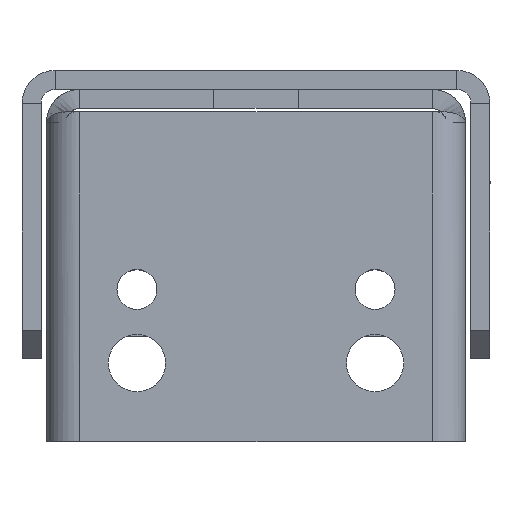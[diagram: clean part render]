
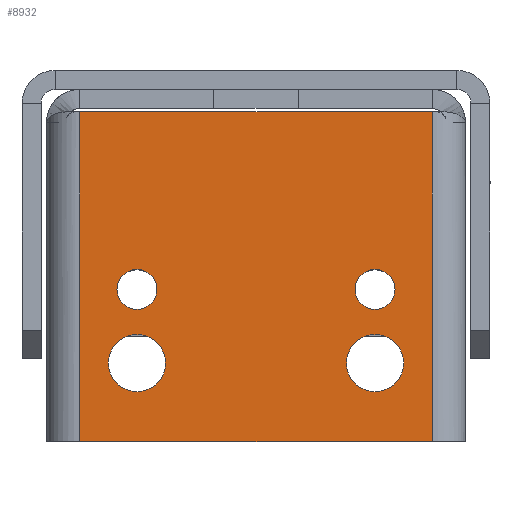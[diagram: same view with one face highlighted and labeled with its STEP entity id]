
A CAD part, left-side view. The second image highlights one B-rep face of the part: STEP entity #8932.
In plain terms, the highlighted planar face has unit normal (-1, 0, 0) as drawn and (0, 0, 1) by its records, which use the part's own axes.
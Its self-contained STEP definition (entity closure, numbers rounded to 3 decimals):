
#8932=ADVANCED_FACE('',(#17180,#17182,#17184,#17186,#17188),#17190,.F.);
#17180=FACE_BOUND('',#17181,.T.);
#17181=EDGE_LOOP('',(#23181,#23182,#23183,#23184));
#17182=FACE_BOUND('',#17183,.T.);
#17183=EDGE_LOOP('',(#23185));
#17184=FACE_BOUND('',#17185,.T.);
#17185=EDGE_LOOP('',(#23186));
#17186=FACE_BOUND('',#17187,.T.);
#17187=EDGE_LOOP('',(#23187));
#17188=FACE_BOUND('',#17189,.T.);
#17189=EDGE_LOOP('',(#23188));
#17190=PLANE('',#17191);
#17191=AXIS2_PLACEMENT_3D('',#17192,#17193,#17194);
#17192=CARTESIAN_POINT('',(18.5,22.,0.));
#17193=DIRECTION('',(0.,0.,-1.));
#17194=DIRECTION('',(-1.,0.,0.));
#23181=ORIENTED_EDGE('',*,*,#26087,.F.);
#23182=ORIENTED_EDGE('',*,*,#26088,.T.);
#23183=ORIENTED_EDGE('',*,*,#26089,.T.);
#23184=ORIENTED_EDGE('',*,*,#26090,.F.);
#23185=ORIENTED_EDGE('',*,*,#26037,.F.);
#23186=ORIENTED_EDGE('',*,*,#26039,.F.);
#23187=ORIENTED_EDGE('',*,*,#26041,.F.);
#23188=ORIENTED_EDGE('',*,*,#26043,.F.);
#26037=EDGE_CURVE('',#30745,#30745,#30746,.T.);
#26039=EDGE_CURVE('',#30749,#30749,#30750,.T.);
#26041=EDGE_CURVE('',#30753,#30753,#30754,.T.);
#26043=EDGE_CURVE('',#30757,#30757,#30758,.T.);
#26087=EDGE_CURVE('',#30837,#30838,#30839,.T.);
#26088=EDGE_CURVE('',#30837,#30840,#30841,.T.);
#26089=EDGE_CURVE('',#30840,#30842,#30843,.T.);
#26090=EDGE_CURVE('',#30838,#30842,#30844,.T.);
#30745=VERTEX_POINT('',#42017);
#30746=CIRCLE('',#42018,2.1);
#30749=VERTEX_POINT('',#42027);
#30750=CIRCLE('',#42028,3.);
#30753=VERTEX_POINT('',#42037);
#30754=CIRCLE('',#42038,2.1);
#30757=VERTEX_POINT('',#42047);
#30758=CIRCLE('',#42048,3.);
#30837=VERTEX_POINT('',#42217);
#30838=VERTEX_POINT('',#42218);
#30839=LINE('',#42219,#42220);
#30840=VERTEX_POINT('',#42222);
#30841=LINE('',#42223,#42224);
#30842=VERTEX_POINT('',#42226);
#30843=LINE('',#42227,#42228);
#30844=LINE('',#42230,#42231);
#42017=CARTESIAN_POINT('',(-0.4,-12.5,0.));
#42018=AXIS2_PLACEMENT_3D('',#42019,#42020,#42021);
#42019=CARTESIAN_POINT('',(-2.5,-12.5,0.));
#42020=DIRECTION('',(0.,0.,1.));
#42021=DIRECTION('',(-1.,0.,0.));
#42027=CARTESIAN_POINT('',(-7.25,-12.5,0.));
#42028=AXIS2_PLACEMENT_3D('',#42029,#42030,#42031);
#42029=CARTESIAN_POINT('',(-10.25,-12.5,0.));
#42030=DIRECTION('',(0.,0.,1.));
#42031=DIRECTION('',(-1.,0.,0.));
#42037=CARTESIAN_POINT('',(-0.4,12.5,0.));
#42038=AXIS2_PLACEMENT_3D('',#42039,#42040,#42041);
#42039=CARTESIAN_POINT('',(-2.5,12.5,0.));
#42040=DIRECTION('',(0.,0.,1.));
#42041=DIRECTION('',(-1.,0.,0.));
#42047=CARTESIAN_POINT('',(-7.25,12.5,0.));
#42048=AXIS2_PLACEMENT_3D('',#42049,#42050,#42051);
#42049=CARTESIAN_POINT('',(-10.25,12.5,0.));
#42050=DIRECTION('',(0.,0.,1.));
#42051=DIRECTION('',(-1.,0.,0.));
#42217=CARTESIAN_POINT('',(16.146,18.5,0.));
#42218=CARTESIAN_POINT('',(16.146,-18.5,0.));
#42219=CARTESIAN_POINT('',(16.146,18.5,0.));
#42220=VECTOR('',#42221,1.);
#42221=DIRECTION('',(0.,-1.,0.));
#42222=CARTESIAN_POINT('',(-18.5,18.5,0.));
#42223=CARTESIAN_POINT('',(16.146,18.5,0.));
#42224=VECTOR('',#42225,1.);
#42225=DIRECTION('',(-1.,0.,0.));
#42226=CARTESIAN_POINT('',(-18.5,-18.5,0.));
#42227=CARTESIAN_POINT('',(-18.5,18.5,0.));
#42228=VECTOR('',#42229,1.);
#42229=DIRECTION('',(0.,-1.,0.));
#42230=CARTESIAN_POINT('',(16.146,-18.5,0.));
#42231=VECTOR('',#42232,1.);
#42232=DIRECTION('',(-1.,0.,0.));
